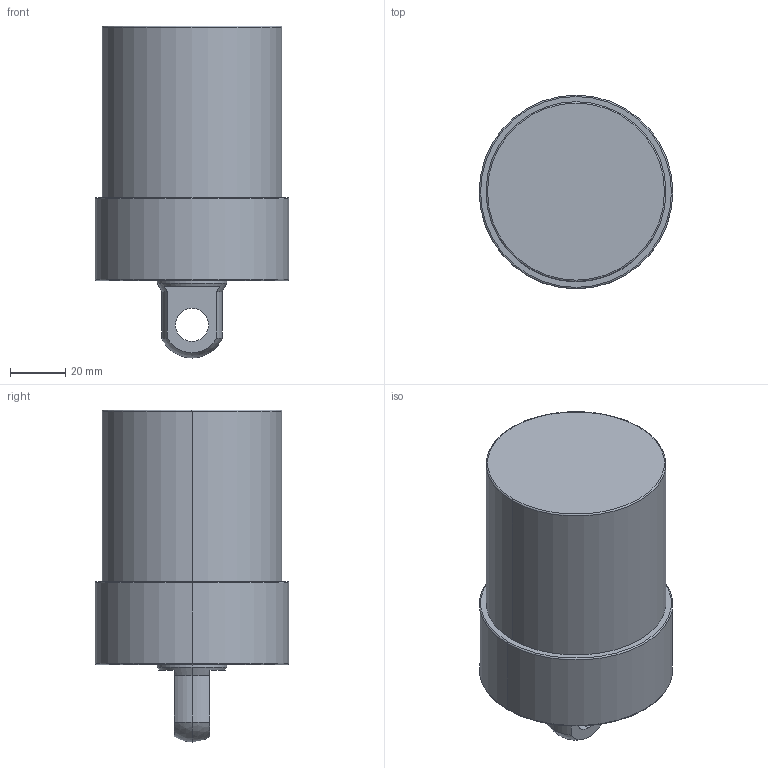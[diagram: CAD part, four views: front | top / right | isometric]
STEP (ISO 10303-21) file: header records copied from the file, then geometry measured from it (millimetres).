
FILE_DESCRIPTION (( 'STEP AP203' ), '1' );
FILE_NAME ('CLLU-065GP-045.STEP', '2020-01-06T09:23:10', ( '' ), ( '' ), 'SwSTEP 2.0', 'SolidWorks 2015', '' );
FILE_SCHEMA (( 'CONFIG_CONTROL_DESIGN' ));
Length unit declared in the file: millimetre
Products named in the file (1): CLLU-065GP-045
Bounding box: 70 x 70 x 120 mm (x, y, z)
Volume: 325376.7 mm3; surface area: 29755.8 mm2
Topology: 1 solids, 1 shells, 58 faces, 131 edges, 75 vertices
Faces by surface type: cylinder 23, cone 18, plane 9, torus 6, sphere 2
Entity records: 1658 total; most frequent: DIRECTION 311, CARTESIAN_POINT 269, ORIENTED_EDGE 246, AXIS2_PLACEMENT_3D 133, EDGE_CURVE 123, VERTEX_POINT 75, CIRCLE 74, EDGE_LOOP 68
